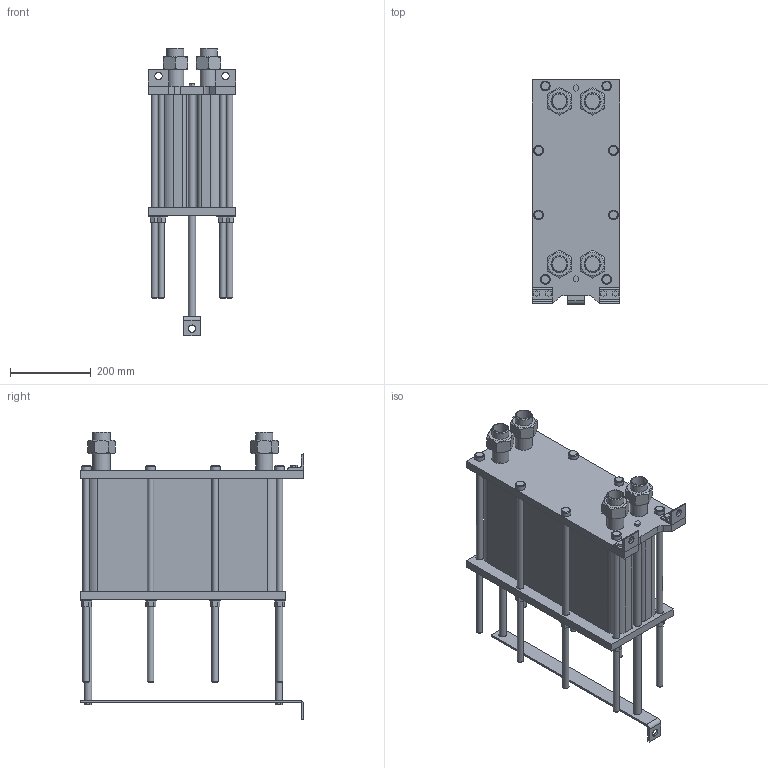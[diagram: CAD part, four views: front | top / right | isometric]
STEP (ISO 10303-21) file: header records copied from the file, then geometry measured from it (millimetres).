
FILE_DESCRIPTION(/* description */ (''),/* implementation_level */ '2;1');
FILE_NAME(/* name */ 'C:\Users\zhuro\Desktop\ENCO\TO\ЭН-004\ЭН-0,5-004-91-1.stp',/* time_stamp */ '2022-06-06T10:51:23+03:00',/* author */ ('zhuro'),/* organization */ (''),/* preprocessor_version */ 'ST-DEVELOPER v18.1',/* originating_system */ 'Autodesk Inventor 2022',/* authorisation */ '');
FILE_SCHEMA (('AUTOMOTIVE_DESIGN { 1 0 10303 214 3 1 1 }'));
Length unit declared in the file: millimetre
Products named in the file (1): ЭН-0,5-004-91-1
Bounding box: 216 x 555 x 713.8 mm (x, y, z)
Volume: 26879357.8 mm3; surface area: 1569546.4 mm2
Topology: 40 solids, 40 shells, 403 faces, 865 edges, 574 vertices
Faces by surface type: plane 272, cylinder 103, cone 28
Full cylindrical faces by diameter (mm): 10 x4, 16 x16, 18 x29, 20 x2, 24 x8, 28 x8, 36.3 x5, 42.3 x9
Entity records: 11137 total; most frequent: CARTESIAN_POINT 1939, DIRECTION 1879, ORIENTED_EDGE 1730, EDGE_CURVE 865, AXIS2_PLACEMENT_3D 658, VERTEX_POINT 574, LINE 563, VECTOR 563
